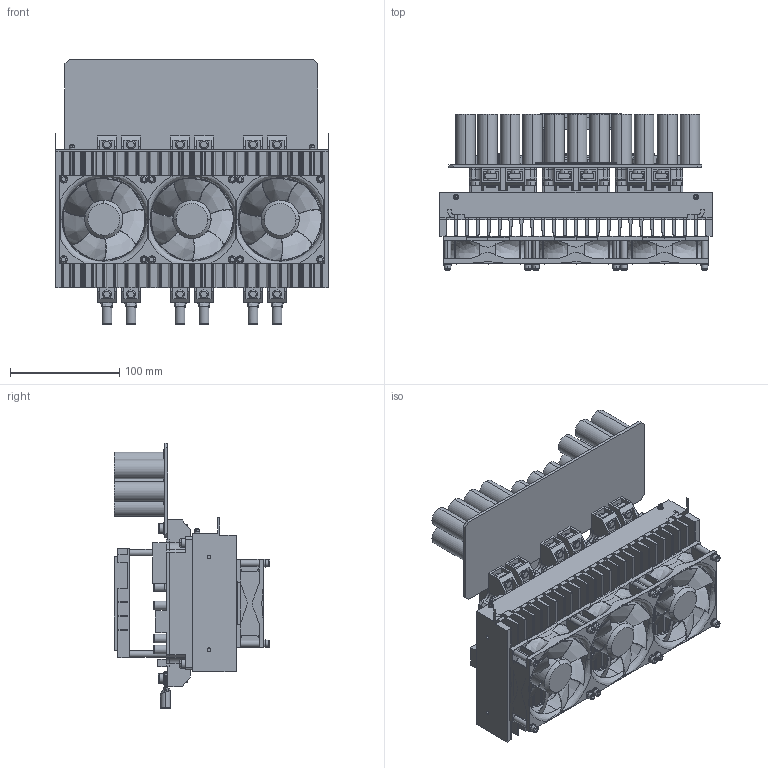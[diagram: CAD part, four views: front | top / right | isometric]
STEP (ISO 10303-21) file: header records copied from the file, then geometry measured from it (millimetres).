
FILE_DESCRIPTION (( 'STEP AP203' ), '1' );
FILE_NAME ('IGBT_HBC400400.STEP', '2018-11-30T14:55:56', ( 'uzivatel' ), ( '' ), 'SwSTEP 2.0', 'SolidWorks 2018', '' );
FILE_SCHEMA (( 'CONFIG_CONTROL_DESIGN' ));
Length unit declared in the file: millimetre
Products named in the file (3): IGBT_DALIV2; kondenzátory; IGBT_HBC400400
Assembly tree (2 placements, depth 2):
  IGBT_HBC400400
    IGBT_DALIV2
    kondenzátory
Bounding box: 250 x 143 x 243.25 mm (x, y, z)
Volume: 290658.2 mm3; surface area: 650272.7 mm2
Topology: 1 solids, 12 shells, 3095 faces, 8850 edges, 5578 vertices
Faces by surface type: plane 1960, cylinder 710, bspline 419, cone 6
Entity records: 113240 total; most frequent: CARTESIAN_POINT 35739, ORIENTED_EDGE 17231, DIRECTION 14532, EDGE_CURVE 8824, VERTEX_POINT 5578, LINE 5534, VECTOR 5534, AXIS2_PLACEMENT_3D 4499
